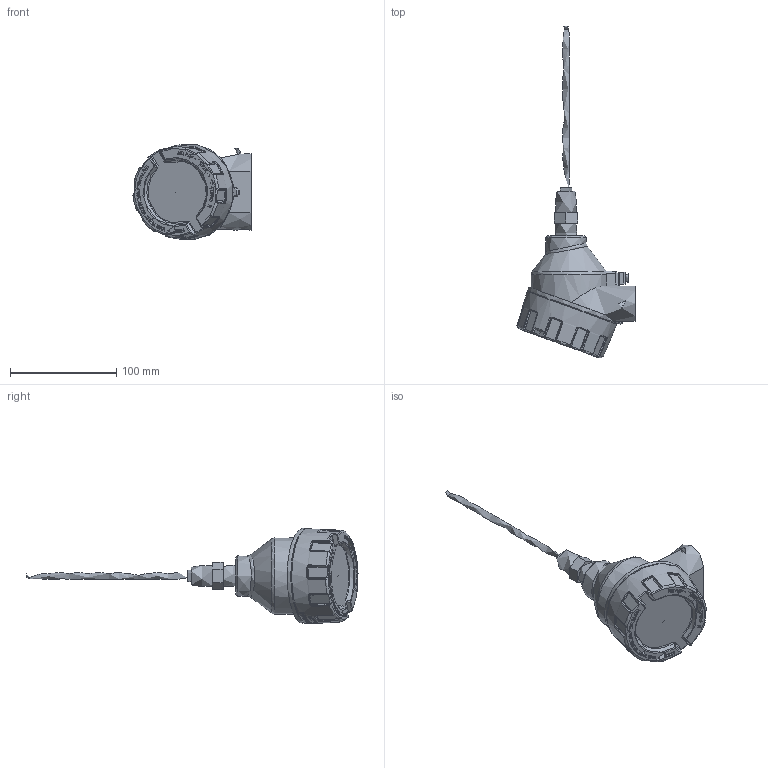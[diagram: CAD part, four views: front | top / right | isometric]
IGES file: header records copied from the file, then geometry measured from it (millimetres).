
Global section: file name: Z-Temp-Head-Spring-Loaded-IGS; native system: Autodesk Inventor 2014; preprocessor: unknown; author: Charles; date: 20151123.084958; units: inch
Bounding box: 111.13 x 312.61 x 89.8 mm (x, y, z)
Volume: 273617.4 mm3; surface area: 82894.6 mm2
Topology: 4 solids, 9 shells, 1414 faces, 3604 edges, 2282 vertices
Faces by surface type: bspline 1414
